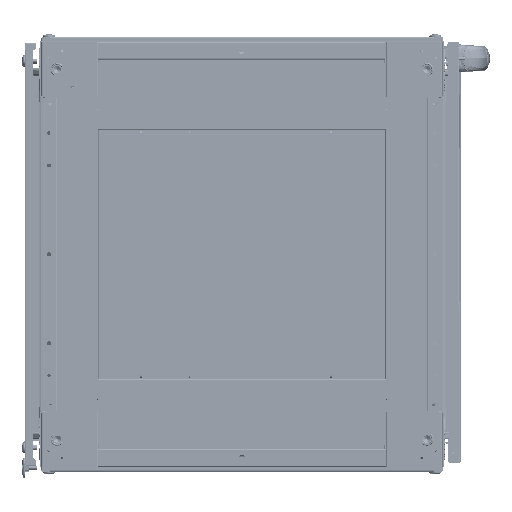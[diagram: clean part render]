
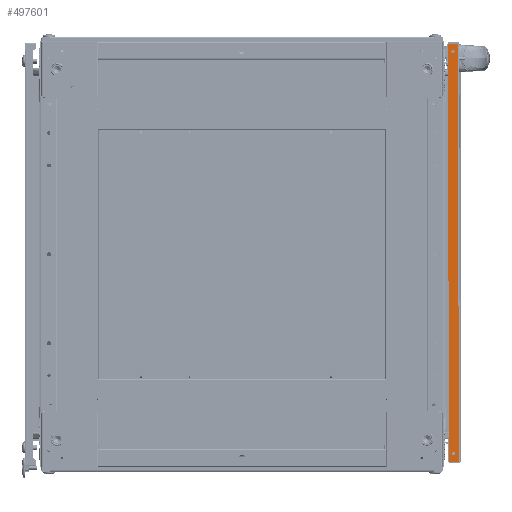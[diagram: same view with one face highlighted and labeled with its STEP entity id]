
A CAD part, front view. The second image highlights one B-rep face of the part: STEP entity #497601.
In plain terms, the highlighted planar face has unit normal (0, -1, 0) as drawn and (-1, 0, 0) by its records, which use the part's own axes.
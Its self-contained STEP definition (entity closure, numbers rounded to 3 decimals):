
#2858 = CARTESIAN_POINT ( 'NONE',  ( -2.01, 2.01, 0. ) ) ;
#7944 = CARTESIAN_POINT ( 'NONE',  ( -2.01, 9., -577. ) ) ;
#13190 = FACE_BOUND ( 'NONE', #541451, .T. ) ;
#21421 = CARTESIAN_POINT ( 'NONE',  ( -2.01, 2.01, -588. ) ) ;
#33377 = ORIENTED_EDGE ( 'NONE', *, *, #412756, .T. ) ;
#53093 = EDGE_CURVE ( 'NONE', #170243, #542603, #556980, .T. ) ;
#57699 = CARTESIAN_POINT ( 'NONE',  ( -2.01, 9., -574.7 ) ) ;
#59014 = EDGE_CURVE ( 'NONE', #584040, #310026, #622551, .T. ) ;
#64626 = CARTESIAN_POINT ( 'NONE',  ( -2.01, 2.01, -588. ) ) ;
#66267 = PLANE ( 'NONE',  #676953 ) ;
#74254 = DIRECTION ( 'NONE',  ( 0., -1., 0. ) ) ;
#93035 = CIRCLE ( 'NONE', #115307, 2.3 ) ;
#114521 = DIRECTION ( 'NONE',  ( 0., 0., -1. ) ) ;
#115307 = AXIS2_PLACEMENT_3D ( 'NONE', #380234, #270622, #596006 ) ;
#132621 = VERTEX_POINT ( 'NONE', #2858 ) ;
#137887 = CARTESIAN_POINT ( 'NONE',  ( -2.01, 16., -588. ) ) ;
#146117 = CARTESIAN_POINT ( 'NONE',  ( -2.01, 16., 0. ) ) ;
#170243 = VERTEX_POINT ( 'NONE', #57699 ) ;
#172720 = CARTESIAN_POINT ( 'NONE',  ( -2.01, 9., -8.7 ) ) ;
#198555 = CARTESIAN_POINT ( 'NONE',  ( -2.01, 16., -588. ) ) ;
#205679 = VERTEX_POINT ( 'NONE', #146117 ) ;
#210350 = CARTESIAN_POINT ( 'NONE',  ( -2.01, 9., -11. ) ) ;
#229116 = CARTESIAN_POINT ( 'NONE',  ( -2.01, 16., -588. ) ) ;
#253990 = EDGE_CURVE ( 'NONE', #519427, #449055, #467210, .T. ) ;
#265816 = DIRECTION ( 'NONE',  ( 0., 0., -1. ) ) ;
#270622 = DIRECTION ( 'NONE',  ( 1., 0., 0. ) ) ;
#273457 = DIRECTION ( 'NONE',  ( 1., 0., 0. ) ) ;
#276622 = EDGE_LOOP ( 'NONE', ( #593206, #311317, #33377, #451719 ) ) ;
#290368 = LINE ( 'NONE', #21421, #377432 ) ;
#308736 = ORIENTED_EDGE ( 'NONE', *, *, #253990, .T. ) ;
#309130 = AXIS2_PLACEMENT_3D ( 'NONE', #501559, #388516, #265816 ) ;
#310026 = VERTEX_POINT ( 'NONE', #64626 ) ;
#311317 = ORIENTED_EDGE ( 'NONE', *, *, #646811, .T. ) ;
#335229 = FACE_BOUND ( 'NONE', #623927, .T. ) ;
#338677 = DIRECTION ( 'NONE',  ( 0., 1., 0. ) ) ;
#345274 = EDGE_CURVE ( 'NONE', #542603, #170243, #93035, .T. ) ;
#377432 = VECTOR ( 'NONE', #389639, 1000. ) ;
#380234 = CARTESIAN_POINT ( 'NONE',  ( -2.01, 9., -577. ) ) ;
#388516 = DIRECTION ( 'NONE',  ( 1., 0., 0. ) ) ;
#389639 = DIRECTION ( 'NONE',  ( 0., 0., -1. ) ) ;
#406902 = ORIENTED_EDGE ( 'NONE', *, *, #345274, .T. ) ;
#408257 = EDGE_CURVE ( 'NONE', #132621, #310026, #290368, .T. ) ;
#410060 = CARTESIAN_POINT ( 'NONE',  ( -2.01, 16., -588. ) ) ;
#411675 = ORIENTED_EDGE ( 'NONE', *, *, #53093, .T. ) ;
#412756 = EDGE_CURVE ( 'NONE', #205679, #584040, #569235, .T. ) ;
#427947 = VECTOR ( 'NONE', #600356, 1000. ) ;
#430743 = CARTESIAN_POINT ( 'NONE',  ( -2.01, 16., 0. ) ) ;
#444947 = DIRECTION ( 'NONE',  ( 1., 0., 0. ) ) ;
#449055 = VERTEX_POINT ( 'NONE', #172720 ) ;
#451479 = EDGE_CURVE ( 'NONE', #449055, #519427, #532622, .T. ) ;
#451719 = ORIENTED_EDGE ( 'NONE', *, *, #59014, .T. ) ;
#467210 = CIRCLE ( 'NONE', #309130, 2.3 ) ;
#478678 = VECTOR ( 'NONE', #505673, 1000. ) ;
#494022 = VECTOR ( 'NONE', #74254, 1000. ) ;
#494184 = LINE ( 'NONE', #430743, #427947 ) ;
#497601 = ADVANCED_FACE ( 'NONE', ( #335229, #13190, #551056 ), #66267, .F. ) ;
#501559 = CARTESIAN_POINT ( 'NONE',  ( -2.01, 9., -11. ) ) ;
#505673 = DIRECTION ( 'NONE',  ( 0., 0., -1. ) ) ;
#511532 = AXIS2_PLACEMENT_3D ( 'NONE', #7944, #273457, #552702 ) ;
#519427 = VERTEX_POINT ( 'NONE', #580970 ) ;
#532622 = CIRCLE ( 'NONE', #589172, 2.3 ) ;
#541451 = EDGE_LOOP ( 'NONE', ( #308736, #668081 ) ) ;
#542603 = VERTEX_POINT ( 'NONE', #642987 ) ;
#551056 = FACE_OUTER_BOUND ( 'NONE', #276622, .T. ) ;
#552702 = DIRECTION ( 'NONE',  ( 0., 0., -1. ) ) ;
#556980 = CIRCLE ( 'NONE', #511532, 2.3 ) ;
#569235 = LINE ( 'NONE', #410060, #478678 ) ;
#580970 = CARTESIAN_POINT ( 'NONE',  ( -2.01, 9., -13.3 ) ) ;
#584040 = VERTEX_POINT ( 'NONE', #198555 ) ;
#589172 = AXIS2_PLACEMENT_3D ( 'NONE', #210350, #592318, #114521 ) ;
#592318 = DIRECTION ( 'NONE',  ( 1., 0., 0. ) ) ;
#593206 = ORIENTED_EDGE ( 'NONE', *, *, #408257, .F. ) ;
#596006 = DIRECTION ( 'NONE',  ( 0., 0., -1. ) ) ;
#600356 = DIRECTION ( 'NONE',  ( 0., 1., 0. ) ) ;
#622551 = LINE ( 'NONE', #137887, #494022 ) ;
#623927 = EDGE_LOOP ( 'NONE', ( #406902, #411675 ) ) ;
#642987 = CARTESIAN_POINT ( 'NONE',  ( -2.01, 9., -579.3 ) ) ;
#646811 = EDGE_CURVE ( 'NONE', #132621, #205679, #494184, .T. ) ;
#668081 = ORIENTED_EDGE ( 'NONE', *, *, #451479, .T. ) ;
#676953 = AXIS2_PLACEMENT_3D ( 'NONE', #229116, #444947, #338677 ) ;
